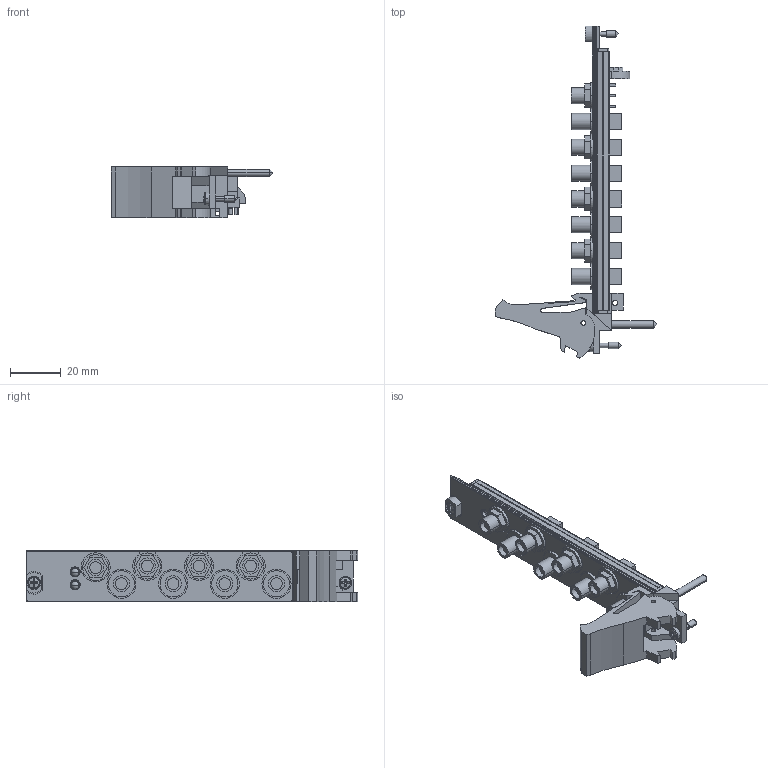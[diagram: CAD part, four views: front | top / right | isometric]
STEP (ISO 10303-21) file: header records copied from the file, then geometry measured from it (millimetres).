
FILE_DESCRIPTION((''),'2;1');
FILE_NAME('CU_PXIE-6674T','2011-05-12T',('jjorden'),(''),'PRO/ENGINEER BY PARAMETRIC TECHNOLOGY CORPORATION, 2010230','PRO/ENGINEER BY PARAMETRIC TECHNOLOGY CORPORATION, 2010230','');
FILE_SCHEMA(('CONFIG_CONTROL_DESIGN'));
Length unit declared in the file: inch
Products named in the file (1): CU_PXIE-6674T
Bounding box: 63.53 x 130.5 x 20.31 mm (x, y, z)
Volume: 21398.6 mm3; surface area: 20945 mm2
Topology: 3 solids, 3 shells, 860 faces, 2264 edges, 1442 vertices
Faces by surface type: plane 630, cylinder 194, cone 24, sphere 8, torus 4
Entity records: 26418 total; most frequent: CARTESIAN_POINT 4640, ORIENTED_EDGE 4512, DIRECTION 4486, EDGE_CURVE 2256, VECTOR 1718, LINE 1718, VERTEX_POINT 1442, AXIS2_PLACEMENT_3D 1384
